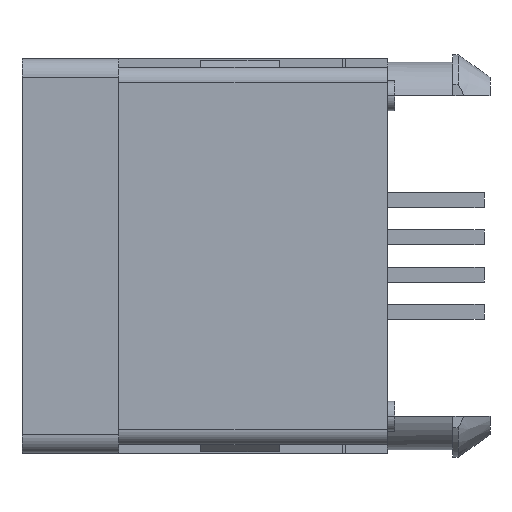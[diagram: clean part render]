
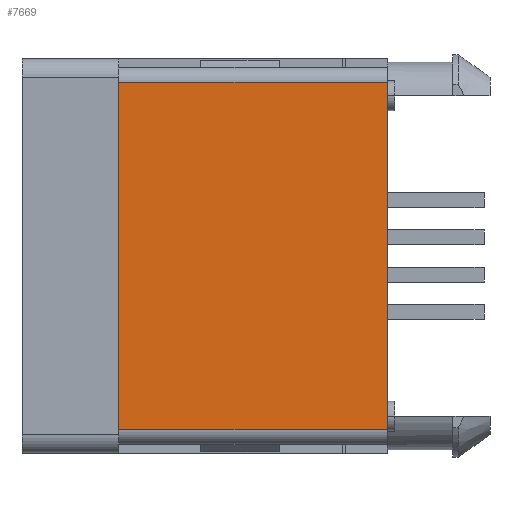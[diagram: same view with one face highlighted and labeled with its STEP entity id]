
A CAD part, left-side view. The second image highlights one B-rep face of the part: STEP entity #7669.
In plain terms, the highlighted planar face has unit normal (-1, 0, 0).
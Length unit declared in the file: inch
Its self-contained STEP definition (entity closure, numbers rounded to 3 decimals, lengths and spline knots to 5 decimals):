
#1472=DIRECTION('',(0.,0.,1.));
#1473=VECTOR('',#1472,0.466);
#1474=CARTESIAN_POINT('',(-0.3025,-0.245,-0.233));
#1475=LINE('',#1474,#1473);
#2517=DIRECTION('',(0.,0.,-1.));
#2518=VECTOR('',#2517,0.466);
#2519=CARTESIAN_POINT('',(-0.3025,0.115,0.233));
#2520=LINE('',#2519,#2518);
#2538=DIRECTION('',(0.,-1.,0.));
#2539=VECTOR('',#2538,0.36);
#2540=CARTESIAN_POINT('',(-0.3025,0.115,0.233));
#2541=LINE('',#2540,#2539);
#2556=DIRECTION('',(0.,1.,0.));
#2557=VECTOR('',#2556,0.36);
#2558=CARTESIAN_POINT('',(-0.3025,-0.245,-0.233));
#2559=LINE('',#2558,#2557);
#3249=CARTESIAN_POINT('',(-0.3025,-0.245,0.233));
#3250=VERTEX_POINT('',#3249);
#3251=CARTESIAN_POINT('',(-0.3025,0.115,0.233));
#3252=VERTEX_POINT('',#3251);
#3257=CARTESIAN_POINT('',(-0.3025,-0.245,-0.233));
#3258=CARTESIAN_POINT('',(-0.3025,0.115,-0.233));
#3259=VERTEX_POINT('',#3257);
#3260=VERTEX_POINT('',#3258);
#7656=CARTESIAN_POINT('',(-0.3025,-0.245,0.318));
#7657=DIRECTION('',(1.,0.,0.));
#7658=DIRECTION('',(0.,1.,0.));
#7659=AXIS2_PLACEMENT_3D('',#7656,#7657,#7658);
#7660=PLANE('',#7659);
#7662=ORIENTED_EDGE('',*,*,#7661,.T.);
#7663=ORIENTED_EDGE('',*,*,#6059,.F.);
#7665=ORIENTED_EDGE('',*,*,#7664,.T.);
#7666=ORIENTED_EDGE('',*,*,#7638,.F.);
#7667=EDGE_LOOP('',(#7662,#7663,#7665,#7666));
#7668=FACE_OUTER_BOUND('',#7667,.F.);
#7669=ADVANCED_FACE('',(#7668),#7660,.F.);
#6059=EDGE_CURVE('',#3259,#3250,#1475,.T.);
#7638=EDGE_CURVE('',#3252,#3260,#2520,.T.);
#7661=EDGE_CURVE('',#3252,#3250,#2541,.T.);
#7664=EDGE_CURVE('',#3259,#3260,#2559,.T.);
